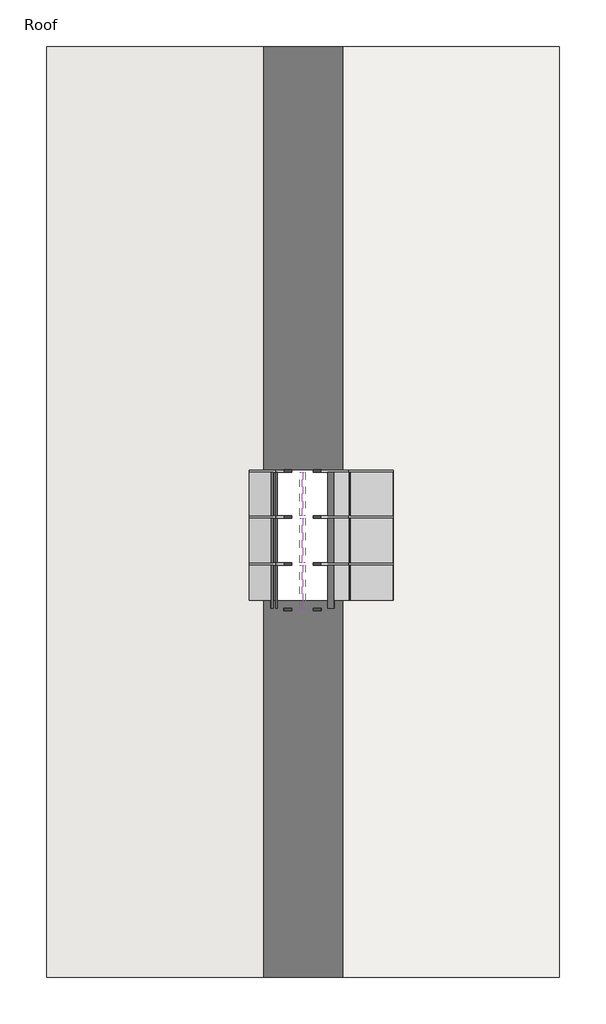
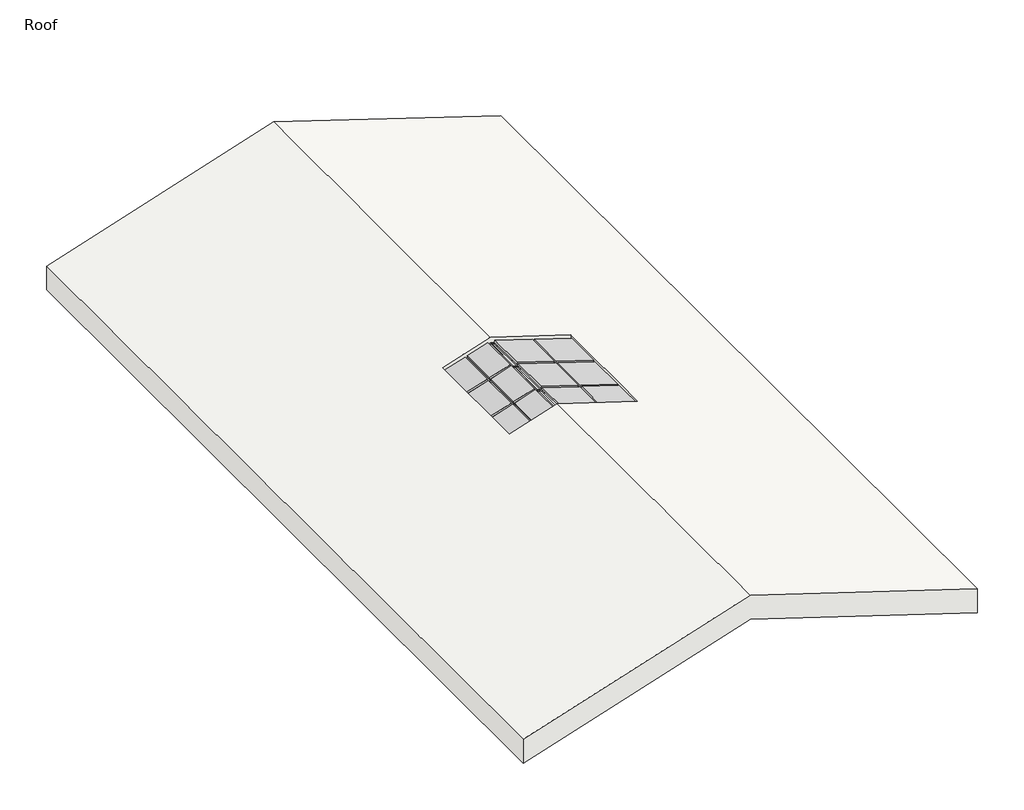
# One storey: 34 members, 12 plates, 1 roof.
"""IFC4 building model written with IfcOpenShell, lengths in millimetres."""

from ifc_helpers import new_model, si_unit, origin, place, context, project, spatial, faceted_brep, transform, mapped, element, save
from components import rectangular_mullion_30mm_square_e5194141, rectangular_mullion_30mm_square_0eed9e45, rectangular_mullion_30mm_square_a0bf7eaf, rectangular_mullion_30mm_square_566eecd6, rectangular_mullion_30mm_square_ec360079, rectangular_mullion_30mm_square_dfaa4696, rectangular_mullion_30mm_square_f75d90f3, rectangular_mullion_30mm_square_a71511a0, rectangular_mullion_30mm_square_c053b5b2, rectangular_mullion_30mm_square_f0c17284, m_glazed_panel_glazed_panel_fdc266c1, m_glazed_panel_glazed_panel_67c75c62, m_glazed_panel_glazed_panel_c1b7c775, m_glazed_panel_glazed_panel_9a824eb0

model = new_model("IFC4")

# Units and contexts
model_context = context("Model", 3, world=origin())
ifc_project = project(units=[si_unit("LENGTHUNIT", "METRE", prefix="MILLI")], contexts=[model_context])

# Site, building, storey
site = spatial("IfcSite", under=ifc_project)
building = spatial("IfcBuilding", under=site)
storey = spatial("IfcBuildingStorey", under=building, Name="Roof", Elevation=6000.0)

# Members
placement = place(None, origin())
rectangular_mullion_30mm_square_shape = rectangular_mullion_30mm_square_e5194141(model_context)
element("IfcMember", 1, ObjectType="Rectangular Mullion : 30mm Square", at=placement, inside=storey, context=model_context, shape_type="MappedRepresentation", body=[
    mapped(rectangular_mullion_30mm_square_shape, transform((-5331.4516822, -1176.8406402, 7152.0615541), x_axis=(0.0, 1.0, 0.0), y_axis=(0.30552140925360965, 0.0, -0.9521852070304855), z_axis=(-0.9521852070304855, 0.0, -0.30552140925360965))),
])
element("IfcMember", 2, ObjectType="Rectangular Mullion : 30mm Square", at=placement, inside=storey, context=model_context, shape_type="MappedRepresentation", body=[
    mapped(rectangular_mullion_30mm_square_shape, transform((-5331.4516822, -1751.8406402, 7152.0615541), x_axis=(0.0, 1.0, 0.0), y_axis=(0.30552140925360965, 0.0, -0.9521852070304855), z_axis=(-0.9521852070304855, 0.0, -0.30552140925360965))),
])
rectangular_mullion_30mm_square_2_shape = rectangular_mullion_30mm_square_0eed9e45(model_context)
element("IfcMember", 3, ObjectType="Rectangular Mullion : 30mm Square", at=placement, inside=storey, context=model_context, shape_type="MappedRepresentation", body=[
    mapped(rectangular_mullion_30mm_square_2_shape, transform((-4443.9516822, -1766.8406402, 7079.3057719), x_axis=(0.952185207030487, 0.0, -0.3055214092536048), y_axis=(-0.3055214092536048, 0.0, -0.952185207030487), z_axis=(0.0, 1.0, 0.0))),
])
element("IfcMember", 4, ObjectType="Rectangular Mullion : 30mm Square", at=placement, inside=storey, context=model_context, shape_type="MappedRepresentation", body=[
    mapped(rectangular_mullion_30mm_square_2_shape, transform((-4443.9516822, -631.8406402, 7079.3057719), x_axis=(0.952185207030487, 0.0, -0.3055214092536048), y_axis=(-0.3055214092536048, 0.0, -0.952185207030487), z_axis=(0.0, 1.0, 0.0))),
])
rectangular_mullion_30mm_square_3_shape = rectangular_mullion_30mm_square_a0bf7eaf(model_context)
element("IfcMember", 5, ObjectType="Rectangular Mullion : 30mm Square", at=placement, inside=storey, context=model_context, shape_type="MappedRepresentation", body=[
    mapped(rectangular_mullion_30mm_square_3_shape, transform((-4443.9516822, -1191.8406402, 7079.3057719), x_axis=(0.952185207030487, 0.0, -0.3055214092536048), y_axis=(-0.3055214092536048, 0.0, -0.952185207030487), z_axis=(0.0, 1.0, 0.0))),
])
rectangular_mullion_30mm_square_4_shape = rectangular_mullion_30mm_square_566eecd6(model_context)
element("IfcMember", 6, ObjectType="Rectangular Mullion : 30mm Square", at=placement, inside=storey, context=model_context, shape_type="MappedRepresentation", body=[
    mapped(rectangular_mullion_30mm_square_4_shape, transform((-4443.9516822, -1176.8406402, 7079.3057719), x_axis=(0.0, 1.0, 0.0), y_axis=(-0.3055214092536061, 0.0, -0.9521852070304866), z_axis=(-0.9521852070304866, 0.0, 0.3055214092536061))),
])
element("IfcMember", 7, ObjectType="Rectangular Mullion : 30mm Square", at=placement, inside=storey, context=model_context, shape_type="MappedRepresentation", body=[
    mapped(rectangular_mullion_30mm_square_4_shape, transform((-4443.9516822, -1751.8406402, 7079.3057719), x_axis=(0.0, 1.0, 0.0), y_axis=(-0.3055214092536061, 0.0, -0.9521852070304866), z_axis=(-0.9521852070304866, 0.0, 0.3055214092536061))),
])
rectangular_mullion_30mm_square_5_shape = rectangular_mullion_30mm_square_ec360079(model_context)
element("IfcMember", 8, ObjectType="Rectangular Mullion : 30mm Square", at=placement, inside=storey, context=model_context, shape_type="MappedRepresentation", body=[
    mapped(rectangular_mullion_30mm_square_5_shape, transform((-5661.8266822, -1176.8406402, 7046.0562992), x_axis=(0.0, 1.0, 0.0), y_axis=(0.30552140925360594, 0.0, -0.9521852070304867), z_axis=(-0.9521852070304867, 0.0, -0.30552140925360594))),
])
element("IfcMember", 9, ObjectType="Rectangular Mullion : 30mm Square", at=placement, inside=storey, context=model_context, shape_type="MappedRepresentation", body=[
    mapped(rectangular_mullion_30mm_square_5_shape, transform((-5661.8266822, -1751.8406402, 7046.0562992), x_axis=(0.0, 1.0, 0.0), y_axis=(0.30552140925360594, 0.0, -0.9521852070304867), z_axis=(-0.9521852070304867, 0.0, -0.30552140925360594))),
])
element("IfcMember", 10, ObjectType="Rectangular Mullion : 30mm Square", at=placement, inside=storey, context=model_context, shape_type="MappedRepresentation", body=[
    mapped(rectangular_mullion_30mm_square_2_shape, transform((-5331.4516822, -1766.8406402, 7152.0615541), x_axis=(0.9521852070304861, 0.0, 0.3055214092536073), y_axis=(0.3055214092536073, 0.0, -0.9521852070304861), z_axis=(0.0, 1.0, 0.0))),
])
element("IfcMember", 11, ObjectType="Rectangular Mullion : 30mm Square", at=placement, inside=storey, context=model_context, shape_type="MappedRepresentation", body=[
    mapped(rectangular_mullion_30mm_square_2_shape, transform((-5331.4516822, -631.8406402, 7152.0615541), x_axis=(0.9521852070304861, 0.0, 0.3055214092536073), y_axis=(0.3055214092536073, 0.0, -0.9521852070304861), z_axis=(0.0, 1.0, 0.0))),
])
element("IfcMember", 12, ObjectType="Rectangular Mullion : 30mm Square", at=placement, inside=storey, context=model_context, shape_type="MappedRepresentation", body=[
    mapped(rectangular_mullion_30mm_square_3_shape, transform((-5331.4516822, -1191.8406402, 7152.0615541), x_axis=(0.9521852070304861, 0.0, 0.3055214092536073), y_axis=(0.3055214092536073, 0.0, -0.9521852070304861), z_axis=(0.0, 1.0, 0.0))),
])
rectangular_mullion_30mm_square_6_shape = rectangular_mullion_30mm_square_dfaa4696(model_context)
element("IfcMember", 13, ObjectType="Rectangular Mullion : 30mm Square", at=placement, inside=storey, context=model_context, shape_type="MappedRepresentation", body=[
    mapped(rectangular_mullion_30mm_square_6_shape, transform((-5001.0766822, -601.8406402, 7258.066809), x_axis=(0.0, 1.0, 0.0), y_axis=(-0.30552140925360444, 0.0, -0.9521852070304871), z_axis=(-0.952185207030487, 0.0, 0.3055214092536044))),
])
rectangular_mullion_30mm_square_7_shape = rectangular_mullion_30mm_square_f75d90f3(model_context)
element("IfcMember", 14, ObjectType="Rectangular Mullion : 30mm Square", at=placement, inside=storey, context=model_context, shape_type="MappedRepresentation", body=[
    mapped(rectangular_mullion_30mm_square_7_shape, transform((-5001.0766822, -2296.8406402, 7258.066809), x_axis=(-0.952185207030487, 0.0, 0.3055214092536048), y_axis=(-0.3055214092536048, 0.0, -0.952185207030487), z_axis=(0.0, -1.0, 0.0))),
])
element("IfcMember", 15, ObjectType="Rectangular Mullion : 30mm Square", at=placement, inside=storey, context=model_context, shape_type="MappedRepresentation", body=[
    mapped(rectangular_mullion_30mm_square_7_shape, transform((-5001.0766822, -1161.8406402, 7258.066809), x_axis=(-0.952185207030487, 0.0, 0.3055214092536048), y_axis=(-0.3055214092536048, 0.0, -0.952185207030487), z_axis=(0.0, -1.0, 0.0))),
])
element("IfcMember", 16, ObjectType="Rectangular Mullion : 30mm Square", at=placement, inside=storey, context=model_context, shape_type="MappedRepresentation", body=[
    mapped(rectangular_mullion_30mm_square_7_shape, transform((-5001.0766822, -631.8406402, 7258.066809), x_axis=(0.9521852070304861, 0.0, 0.3055214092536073), y_axis=(0.3055214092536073, 0.0, -0.9521852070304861), z_axis=(0.0, 1.0, 0.0))),
])
element("IfcMember", 17, ObjectType="Rectangular Mullion : 30mm Square", at=placement, inside=storey, context=model_context, shape_type="MappedRepresentation", body=[
    mapped(rectangular_mullion_30mm_square_7_shape, transform((-5001.0766822, -1766.8406402, 7258.066809), x_axis=(0.9521852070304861, 0.0, 0.3055214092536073), y_axis=(0.3055214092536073, 0.0, -0.9521852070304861), z_axis=(0.0, 1.0, 0.0))),
])
element("IfcMember", 18, ObjectType="Rectangular Mullion : 30mm Square", at=placement, inside=storey, context=model_context, shape_type="MappedRepresentation", body=[
    mapped(rectangular_mullion_30mm_square_7_shape, transform((-3886.8266822, -631.8406402, 6900.5447348), x_axis=(0.952185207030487, 0.0, -0.3055214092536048), y_axis=(-0.3055214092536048, 0.0, -0.952185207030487), z_axis=(0.0, 1.0, 0.0))),
])
element("IfcMember", 19, ObjectType="Rectangular Mullion : 30mm Square", at=placement, inside=storey, context=model_context, shape_type="MappedRepresentation", body=[
    mapped(rectangular_mullion_30mm_square_7_shape, transform((-3886.8266822, -1766.8406402, 6900.5447348), x_axis=(0.952185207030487, 0.0, -0.3055214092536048), y_axis=(-0.3055214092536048, 0.0, -0.952185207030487), z_axis=(0.0, 1.0, 0.0))),
])
element("IfcMember", 20, ObjectType="Rectangular Mullion : 30mm Square", at=placement, inside=storey, context=model_context, shape_type="MappedRepresentation", body=[
    mapped(rectangular_mullion_30mm_square_7_shape, transform((-5661.8266822, -2296.8406402, 7046.0562992), x_axis=(-0.9521852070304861, 0.0, -0.3055214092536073), y_axis=(0.3055214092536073, 0.0, -0.9521852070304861), z_axis=(0.0, -1.0, 0.0))),
])
element("IfcMember", 21, ObjectType="Rectangular Mullion : 30mm Square", at=placement, inside=storey, context=model_context, shape_type="MappedRepresentation", body=[
    mapped(rectangular_mullion_30mm_square_7_shape, transform((-5661.8266822, -1161.8406402, 7046.0562992), x_axis=(-0.9521852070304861, 0.0, -0.3055214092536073), y_axis=(0.3055214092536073, 0.0, -0.9521852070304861), z_axis=(0.0, -1.0, 0.0))),
])
element("IfcMember", 22, ObjectType="Rectangular Mullion : 30mm Square", at=placement, inside=storey, context=model_context, shape_type="MappedRepresentation", body=[
    mapped(rectangular_mullion_30mm_square_6_shape, transform((-3886.8266822, -2326.8406402, 6900.5447348), x_axis=(0.0, -1.0, 0.0), y_axis=(-0.30552140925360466, 0.0, -0.952185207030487), z_axis=(0.952185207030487, 0.0, -0.30552140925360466))),
])
element("IfcMember", 23, ObjectType="Rectangular Mullion : 30mm Square", at=placement, inside=storey, context=model_context, shape_type="MappedRepresentation", body=[
    mapped(rectangular_mullion_30mm_square_6_shape, transform((-4443.9516822, -601.8406402, 7079.3057719), x_axis=(0.0, 1.0, 0.0), y_axis=(-0.3055214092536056, 0.0, -0.9521852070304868), z_axis=(-0.9521852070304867, 0.0, 0.30552140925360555))),
])
rectangular_mullion_30mm_square_8_shape = rectangular_mullion_30mm_square_a71511a0(model_context)
element("IfcMember", 24, ObjectType="Rectangular Mullion : 30mm Square", at=placement, inside=storey, context=model_context, shape_type="MappedRepresentation", body=[
    mapped(rectangular_mullion_30mm_square_8_shape, transform((-3886.8266822, -1191.8406402, 6900.5447348), x_axis=(0.952185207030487, 0.0, -0.3055214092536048), y_axis=(-0.3055214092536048, 0.0, -0.952185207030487), z_axis=(0.0, 1.0, 0.0))),
])
element("IfcMember", 25, ObjectType="Rectangular Mullion : 30mm Square", at=placement, inside=storey, context=model_context, shape_type="MappedRepresentation", body=[
    mapped(rectangular_mullion_30mm_square_8_shape, transform((-5661.8266822, -1736.8406402, 7046.0562992), x_axis=(-0.9521852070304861, 0.0, -0.3055214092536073), y_axis=(0.3055214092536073, 0.0, -0.9521852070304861), z_axis=(0.0, -1.0, 0.0))),
])
element("IfcMember", 26, ObjectType="Rectangular Mullion : 30mm Square", at=placement, inside=storey, context=model_context, shape_type="MappedRepresentation", body=[
    mapped(rectangular_mullion_30mm_square_6_shape, transform((-4443.9516822, -2326.8406402, 7079.3057719), x_axis=(0.0, -1.0, 0.0), y_axis=(-0.3055214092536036, 0.0, -0.9521852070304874), z_axis=(0.9521852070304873, 0.0, -0.30552140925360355))),
])
element("IfcMember", 27, ObjectType="Rectangular Mullion : 30mm Square", at=placement, inside=storey, context=model_context, shape_type="MappedRepresentation", body=[
    mapped(rectangular_mullion_30mm_square_8_shape, transform((-5001.0766822, -1736.8406402, 7258.066809), x_axis=(-0.952185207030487, 0.0, 0.3055214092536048), y_axis=(-0.3055214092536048, 0.0, -0.952185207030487), z_axis=(0.0, -1.0, 0.0))),
])
element("IfcMember", 28, ObjectType="Rectangular Mullion : 30mm Square", at=placement, inside=storey, context=model_context, shape_type="MappedRepresentation", body=[
    mapped(rectangular_mullion_30mm_square_8_shape, transform((-5001.0766822, -1191.8406402, 7258.066809), x_axis=(0.9521852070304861, 0.0, 0.3055214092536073), y_axis=(0.3055214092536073, 0.0, -0.9521852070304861), z_axis=(0.0, 1.0, 0.0))),
])
rectangular_mullion_30mm_square_9_shape = rectangular_mullion_30mm_square_c053b5b2(model_context)
element("IfcMember", 29, ObjectType="Rectangular Mullion : 30mm Square", at=placement, inside=storey, context=model_context, shape_type="MappedRepresentation", body=[
    mapped(rectangular_mullion_30mm_square_9_shape, transform((-5661.8266822, -601.8406402, 7046.0562992), x_axis=(0.0, 1.0, 0.0), y_axis=(0.30552140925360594, 0.0, -0.9521852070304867), z_axis=(-0.9521852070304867, 0.0, -0.30552140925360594))),
])
element("IfcMember", 30, ObjectType="Rectangular Mullion : 30mm Square", at=placement, inside=storey, context=model_context, shape_type="MappedRepresentation", body=[
    mapped(rectangular_mullion_30mm_square_9_shape, transform((-5001.0766822, -2326.8406402, 7258.066809), x_axis=(0.0, -1.0, 0.0), y_axis=(0.30552140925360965, 0.0, -0.9521852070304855), z_axis=(0.9521852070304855, 0.0, 0.30552140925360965))),
])
element("IfcMember", 31, ObjectType="Rectangular Mullion : 30mm Square", at=placement, inside=storey, context=model_context, shape_type="MappedRepresentation", body=[
    mapped(rectangular_mullion_30mm_square_9_shape, transform((-5331.4516822, -601.8406402, 7152.0615541), x_axis=(0.0, 1.0, 0.0), y_axis=(0.30552140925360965, 0.0, -0.9521852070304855), z_axis=(-0.9521852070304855, 0.0, -0.30552140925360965))),
])
element("IfcMember", 32, ObjectType="Rectangular Mullion : 30mm Square", at=placement, inside=storey, context=model_context, shape_type="MappedRepresentation", body=[
    mapped(rectangular_mullion_30mm_square_9_shape, transform((-5331.4516822, -2326.8406402, 7152.0615541), x_axis=(0.0, -1.0, 0.0), y_axis=(0.3055214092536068, 0.0, -0.9521852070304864), z_axis=(0.9521852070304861, 0.0, 0.30552140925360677))),
])
rectangular_mullion_30mm_square_10_shape = rectangular_mullion_30mm_square_f0c17284(model_context)
element("IfcMember", 33, ObjectType="Rectangular Mullion : 30mm Square", at=placement, inside=storey, context=model_context, shape_type="MappedRepresentation", body=[
    mapped(rectangular_mullion_30mm_square_10_shape, transform((-5001.0766822, -1176.8406402, 7258.066809), x_axis=(0.0, 1.0, 0.0), y_axis=(-0.30552140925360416, 0.0, -0.9521852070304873), z_axis=(-0.9521852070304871, 0.0, 0.3055214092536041))),
])
element("IfcMember", 34, ObjectType="Rectangular Mullion : 30mm Square", at=placement, inside=storey, context=model_context, shape_type="MappedRepresentation", body=[
    mapped(rectangular_mullion_30mm_square_10_shape, transform((-5001.0766822, -1751.8406402, 7258.066809), x_axis=(0.0, 1.0, 0.0), y_axis=(-0.30552140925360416, 0.0, -0.9521852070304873), z_axis=(-0.9521852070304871, 0.0, 0.3055214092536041))),
])

# Plates
m_glazed_panel_glazed_panel_shape = m_glazed_panel_glazed_panel_fdc266c1(model_context)
element("IfcPlate", 35, ObjectType="M_Glazed Panel : Glazed Panel", at=placement, inside=storey, context=model_context, shape_type="MappedRepresentation", body=[
    mapped(m_glazed_panel_glazed_panel_shape, transform((-5633.261126, -2031.8406402, 7055.2219415), x_axis=(0.0, 1.0, 0.0), y_axis=(-0.3055214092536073, 0.0, 0.9521852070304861), z_axis=(0.9521852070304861, 0.0, 0.3055214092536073))),
])
element("IfcPlate", 36, ObjectType="M_Glazed Panel : Glazed Panel", at=placement, inside=storey, context=model_context, shape_type="MappedRepresentation", body=[
    mapped(m_glazed_panel_glazed_panel_shape, transform((-5633.261126, -896.8406402, 7055.2219415), x_axis=(0.0, 1.0, 0.0), y_axis=(-0.3055214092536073, 0.0, 0.9521852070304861), z_axis=(0.9521852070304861, 0.0, 0.3055214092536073))),
])
element("IfcPlate", 37, ObjectType="M_Glazed Panel : Glazed Panel", at=placement, inside=storey, context=model_context, shape_type="MappedRepresentation", body=[
    mapped(m_glazed_panel_glazed_panel_shape, transform((-5317.1689041, -2031.8406402, 7156.6443753), x_axis=(0.0, 1.0, 0.0), y_axis=(-0.3055214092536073, 0.0, 0.9521852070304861), z_axis=(0.9521852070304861, 0.0, 0.3055214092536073))),
])
element("IfcPlate", 38, ObjectType="M_Glazed Panel : Glazed Panel", at=placement, inside=storey, context=model_context, shape_type="MappedRepresentation", body=[
    mapped(m_glazed_panel_glazed_panel_shape, transform((-5317.1689041, -896.8406402, 7156.6443753), x_axis=(0.0, 1.0, 0.0), y_axis=(-0.3055214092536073, 0.0, 0.9521852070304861), z_axis=(0.9521852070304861, 0.0, 0.3055214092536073))),
])
m_glazed_panel_glazed_panel_2_shape = m_glazed_panel_glazed_panel_67c75c62(model_context)
element("IfcPlate", 39, ObjectType="M_Glazed Panel : Glazed Panel", at=placement, inside=storey, context=model_context, shape_type="MappedRepresentation", body=[
    mapped(m_glazed_panel_glazed_panel_2_shape, transform((-4972.511126, -2031.8406402, 7248.9011668), x_axis=(0.0, 1.0, 0.0), y_axis=(0.3055214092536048, 0.0, 0.952185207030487), z_axis=(0.952185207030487, 0.0, -0.3055214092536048))),
])
element("IfcPlate", 40, ObjectType="M_Glazed Panel : Glazed Panel", at=placement, inside=storey, context=model_context, shape_type="MappedRepresentation", body=[
    mapped(m_glazed_panel_glazed_panel_2_shape, transform((-4972.511126, -896.8406402, 7248.9011668), x_axis=(0.0, 1.0, 0.0), y_axis=(0.3055214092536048, 0.0, 0.952185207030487), z_axis=(0.952185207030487, 0.0, -0.3055214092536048))),
])
element("IfcPlate", 41, ObjectType="M_Glazed Panel : Glazed Panel", at=placement, inside=storey, context=model_context, shape_type="MappedRepresentation", body=[
    mapped(m_glazed_panel_glazed_panel_2_shape, transform((-4429.6689041, -2031.8406402, 7074.7229508), x_axis=(0.0, 1.0, 0.0), y_axis=(0.3055214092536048, 0.0, 0.952185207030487), z_axis=(0.952185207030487, 0.0, -0.3055214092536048))),
])
element("IfcPlate", 42, ObjectType="M_Glazed Panel : Glazed Panel", at=placement, inside=storey, context=model_context, shape_type="MappedRepresentation", body=[
    mapped(m_glazed_panel_glazed_panel_2_shape, transform((-4429.6689041, -896.8406402, 7074.7229508), x_axis=(0.0, 1.0, 0.0), y_axis=(0.3055214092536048, 0.0, 0.952185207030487), z_axis=(0.952185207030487, 0.0, -0.3055214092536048))),
])
m_glazed_panel_glazed_panel_3_shape = m_glazed_panel_glazed_panel_c1b7c775(model_context)
element("IfcPlate", 43, ObjectType="M_Glazed Panel : Glazed Panel", at=placement, inside=storey, context=model_context, shape_type="MappedRepresentation", body=[
    mapped(m_glazed_panel_glazed_panel_3_shape, transform((-4972.511126, -1464.3406402, 7248.9011668), x_axis=(0.0, 1.0, 0.0), y_axis=(0.3055214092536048, 0.0, 0.952185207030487), z_axis=(0.952185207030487, 0.0, -0.3055214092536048))),
])
element("IfcPlate", 44, ObjectType="M_Glazed Panel : Glazed Panel", at=placement, inside=storey, context=model_context, shape_type="MappedRepresentation", body=[
    mapped(m_glazed_panel_glazed_panel_3_shape, transform((-4429.6689041, -1464.3406402, 7074.7229508), x_axis=(0.0, 1.0, 0.0), y_axis=(0.3055214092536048, 0.0, 0.952185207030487), z_axis=(0.952185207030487, 0.0, -0.3055214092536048))),
])
m_glazed_panel_glazed_panel_4_shape = m_glazed_panel_glazed_panel_9a824eb0(model_context)
element("IfcPlate", 45, ObjectType="M_Glazed Panel : Glazed Panel", at=placement, inside=storey, context=model_context, shape_type="MappedRepresentation", body=[
    mapped(m_glazed_panel_glazed_panel_4_shape, transform((-5633.261126, -1464.3406402, 7055.2219415), x_axis=(0.0, 1.0, 0.0), y_axis=(-0.3055214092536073, 0.0, 0.9521852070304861), z_axis=(0.9521852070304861, 0.0, 0.3055214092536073))),
])
element("IfcPlate", 46, ObjectType="M_Glazed Panel : Glazed Panel", at=placement, inside=storey, context=model_context, shape_type="MappedRepresentation", body=[
    mapped(m_glazed_panel_glazed_panel_4_shape, transform((-5317.1689041, -1464.3406402, 7156.6443753), x_axis=(0.0, 1.0, 0.0), y_axis=(-0.3055214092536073, 0.0, 0.9521852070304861), z_axis=(0.9521852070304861, 0.0, 0.3055214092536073))),
])

# Roof
element("IfcRoof", 47, ObjectType="Warm Roof - Concrete", at=placement, inside=storey, context=model_context, shape_type="Brep", body=[
    faceted_brep([(-8133.3266822, 4576.7328473, 6000.0), (-4997.5766822, 4576.7328473, 7006.1474931), (-4997.5766822, -601.8406402, 7006.1474931), (-5661.8266822, -601.8406402, 6793.0139614), (-5661.8266822, -2201.8406402, 6793.0139614), (-4997.5766822, -2201.8406402, 7006.1474931), (-4997.5766822, -6811.7671527, 7006.1474931), (-8133.3266822, -6811.7671527, 6000.0), (-1861.8266822, 4576.7328473, 6000.0), (-1861.8266822, -6811.7671527, 6000.0), (-3886.8266822, -2201.8406402, 6649.7484409), (-3886.8266822, -601.8406402, 6649.7484409), (-8133.3266822, 4576.7328473, 6349.7218793), (-8133.3266822, -6811.7671527, 6349.7218793), (-4997.5766822, -6811.7671527, 7355.8693724), (-4997.5766822, -2201.8406402, 7355.8693724), (-5661.8266822, -2201.8406402, 7142.7358406), (-5661.8266822, -601.8406402, 7142.7358406), (-4997.5766822, -601.8406402, 7355.8693724), (-4997.5766822, 4576.7328473, 7355.8693724), (-1861.8266822, -6811.7671527, 6349.7218793), (-1861.8266822, 4576.7328473, 6349.7218793), (-3886.8266822, -601.8406402, 6999.4703202), (-3886.8266822, -2201.8406402, 6999.4703202)], [[[0, 1, 2, 3, 4, 5, 6, 7]], [[1, 8, 9, 6, 5, 10, 11, 2]], [[12, 13, 14, 15, 16, 17, 18, 19]], [[20, 21, 19, 18, 22, 23, 15, 14]], [[13, 12, 0, 7]], [[21, 20, 9, 8]], [[8, 1, 0, 12, 19, 21]], [[7, 6, 9, 20, 14, 13]], [[11, 22, 18, 17, 3, 2]], [[3, 17, 16, 4]], [[4, 16, 15, 23, 10, 5]], [[22, 11, 10, 23]]]),
])

save(model, "model.ifc")
